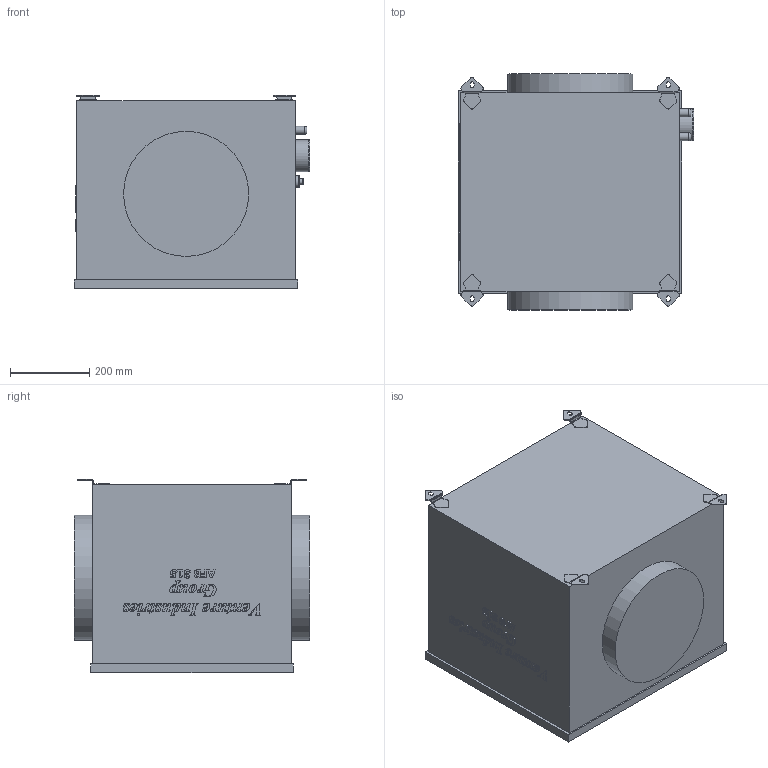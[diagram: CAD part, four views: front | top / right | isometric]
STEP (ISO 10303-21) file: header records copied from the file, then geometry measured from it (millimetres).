
FILE_DESCRIPTION(/* description */ (''),/* implementation_level */ '2;1');
FILE_NAME(/* name */ 'D:\Piotr - Dokumenty\Modele uproszczone\AFB\AFB 315\AFB_315.stp',/* time_stamp */ '2021-03-22T12:09:54+01:00',/* author */ ('Piotr.Nowotniak'),/* organization */ (''),/* preprocessor_version */ 'ST-DEVELOPER v18',/* originating_system */ 'Autodesk Inventor 2020',/* authorisation */ '');
FILE_SCHEMA (('AUTOMOTIVE_DESIGN { 1 0 10303 214 3 1 1 }'));
Length unit declared in the file: millimetre
Products named in the file (1): AFB_315
Bounding box: 592.5 x 594 x 486.46 mm (x, y, z)
Volume: 138426129.2 mm3; surface area: 1702562.3 mm2
Topology: 1 solids, 1 shells, 778 faces, 2155 edges, 1430 vertices
Faces by surface type: bspline 367, plane 323, cylinder 83, torus 5
Full cylindrical faces by diameter (mm): 15 x1, 20.2 x2, 30 x1, 80 x1, 315 x2
Entity records: 30984 total; most frequent: CARTESIAN_POINT 13176, ORIENTED_EDGE 4310, DIRECTION 2406, EDGE_CURVE 2155, VERTEX_POINT 1430, LINE 1260, VECTOR 1260, EDGE_LOOP 837
